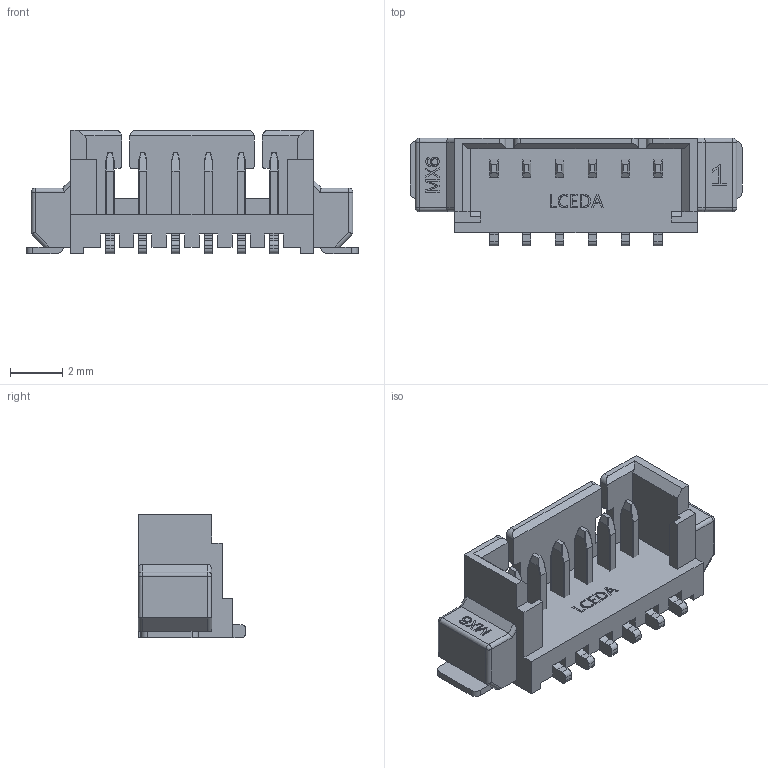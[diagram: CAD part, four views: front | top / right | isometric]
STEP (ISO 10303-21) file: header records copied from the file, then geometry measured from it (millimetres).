
FILE_DESCRIPTION (( 'STEP AP214' ), '1' );
FILE_NAME ('CONN-SMD_MX1.25-LS-6P.step', '2022-08-08T03:15:26', ( '' ), ( '' ), 'SwSTEP 2.0', 'SolidWorks 2020', '' );
FILE_SCHEMA (( 'AUTOMOTIVE_DESIGN' ));
Length unit declared in the file: millimetre
Products named in the file (1): CONN-SMD_MX1.25-LS-6P
Bounding box: 12.65 x 4.1 x 4.7 mm (x, y, z)
Volume: 83.3 mm3; surface area: 331.6 mm2
Topology: 20 solids, 20 shells, 775 faces, 2115 edges, 1388 vertices
Faces by surface type: plane 468, cylinder 166, bspline 137, sphere 4
Entity records: 34959 total; most frequent: CARTESIAN_POINT 7750, ORIENTED_EDGE 4222, DIRECTION 3183, EDGE_CURVE 2111, VECTOR 1525, LINE 1525, VERTEX_POINT 1388, AXIS2_PLACEMENT_3D 829
